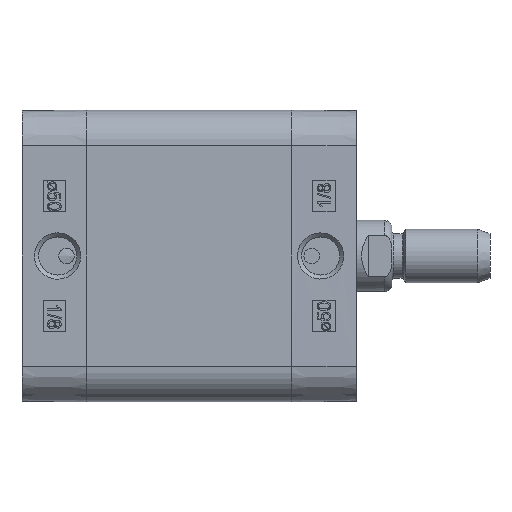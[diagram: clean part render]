
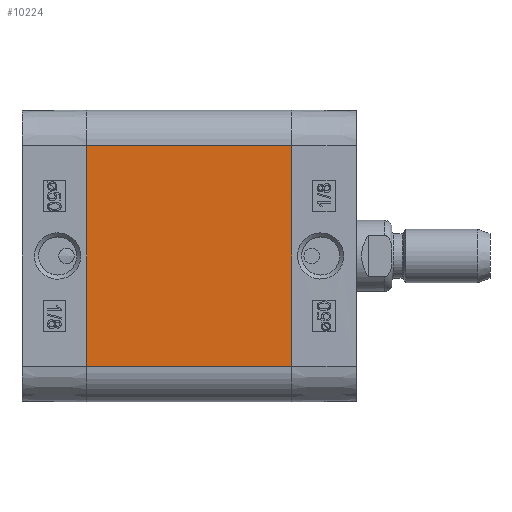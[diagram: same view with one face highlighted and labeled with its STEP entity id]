
A CAD part, left-side view. The second image highlights one B-rep face of the part: STEP entity #10224.
In plain terms, the highlighted planar face has unit normal (-1, 0, 0).
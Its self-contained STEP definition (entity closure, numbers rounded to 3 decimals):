
#5226=CARTESIAN_POINT('',(-32.75,-46.0,24.75));
#5227=VERTEX_POINT('',#5226);
#5234=CARTESIAN_POINT('',(-32.75,-46.0,-24.75));
#5235=VERTEX_POINT('',#5234);
#5236=CARTESIAN_POINT('',(-32.75,-46.0,-24.75));
#5237=DIRECTION('',(0.0,0.0,1.0));
#5238=VECTOR('',#5237,49.5);
#5239=LINE('',#5236,#5238);
#5240=EDGE_CURVE('',#5235,#5227,#5239,.T.);
#10182=CARTESIAN_POINT('',(-32.75,0.0,-24.75));
#10183=VERTEX_POINT('',#10182);
#10184=CARTESIAN_POINT('',(-32.75,0.0,-24.75));
#10185=DIRECTION('',(0.0,-1.0,0.0));
#10186=VECTOR('',#10185,46.0);
#10187=LINE('',#10184,#10186);
#10188=EDGE_CURVE('',#10183,#5235,#10187,.T.);
#10201=CARTESIAN_POINT('',(-32.75,0.0,-24.75));
#10202=DIRECTION('',(-1.0,0.0,0.0));
#10203=DIRECTION('',(0.0,0.0,1.0));
#10204=AXIS2_PLACEMENT_3D('',#10201,#10202,#10203);
#10205=PLANE('',#10204);
#10206=ORIENTED_EDGE('',*,*,#5240,.T.);
#10207=CARTESIAN_POINT('',(-32.75,0.0,24.75));
#10208=VERTEX_POINT('',#10207);
#10209=CARTESIAN_POINT('',(-32.75,0.0,24.75));
#10210=DIRECTION('',(0.0,-1.0,0.0));
#10211=VECTOR('',#10210,46.0);
#10212=LINE('',#10209,#10211);
#10213=EDGE_CURVE('',#10208,#5227,#10212,.T.);
#10214=ORIENTED_EDGE('',*,*,#10213,.F.);
#10215=CARTESIAN_POINT('',(-32.75,0.0,-24.75));
#10216=DIRECTION('',(0.0,0.0,1.0));
#10217=VECTOR('',#10216,49.5);
#10218=LINE('',#10215,#10217);
#10219=EDGE_CURVE('',#10183,#10208,#10218,.T.);
#10220=ORIENTED_EDGE('',*,*,#10219,.F.);
#10221=ORIENTED_EDGE('',*,*,#10188,.T.);
#10222=EDGE_LOOP('',(#10206,#10214,#10220,#10221));
#10223=FACE_OUTER_BOUND('',#10222,.T.);
#10224=ADVANCED_FACE('',(#10223),#10205,.T.);
